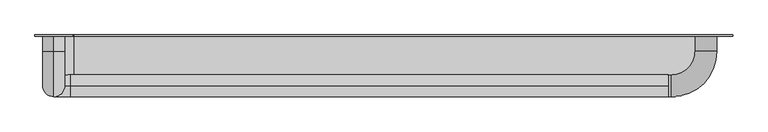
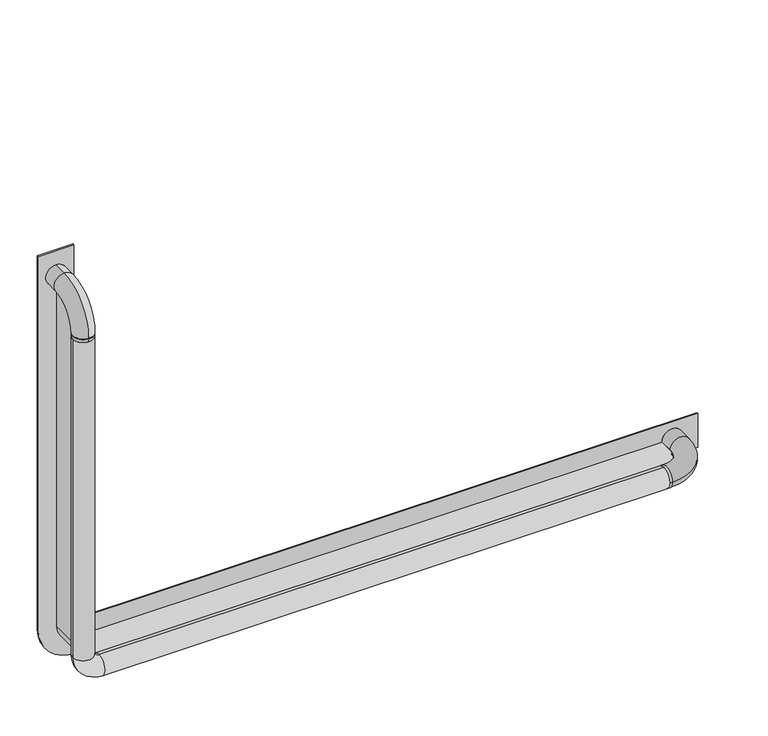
"""IFC4 building model written with IfcOpenShell, lengths in millimetres: proxy geometry, Grab Rail_Metlam_90 Deg_Anti Ligature_Right : 982w x 90d x 632d (MLR104_AL)."""

from ifc_helpers import new_model, si_unit, point, frame, frame_2d, origin, place, context, project, spatial, polyline, circle_curve, ellipse_curve, trimmed, segment, composite_curve, outline, extrude, source, transform, mapped, element, save
from ifc_brep_helpers import plane_surface, cylinder_surface, revolved_surface, advanced_brep


def specialty_equipment_21e379d4(model_context):
    return source(origin(), model_context, "Body", "SolidModel", [
        advanced_brep(
        [(-469.0, -74.0, 768.0), (-1339.0, -74.0, 768.0), (-1339.0, -74.0, 800.0), (-469.0, -74.0, 800.0), (-469.0, -58.0, 784.0), (-469.0, -90.0, 784.0), (-1380.0, -74.0, 809.0), (-1348.0, -74.0, 809.0), (-1380.0, -74.0, 1327.7133711), (-1364.0, -58.0, 1327.7133711), (-1348.0, -74.0, 1327.7133711), (-1364.0, -90.0, 1327.7133711), (-464.0, -58.0, 784.0), (-430.0, -24.0, 784.0), (-398.0, -24.0, 784.0), (-464.0, -90.0, 784.0), (-375.0, 0.0, 811.5), (-375.0, 0.0, 756.5), (-1334.0, 0.0, 756.5), (-1391.5, 0.0, 814.0), (-1391.5, 0.0, 1423.0000618), (-1336.5, 0.0, 1423.0000618), (-1336.5, 0.0, 814.0), (-1334.0, 0.0, 811.5), (-430.0, -2.0, 784.0), (-398.0, -2.0, 784.0), (-1364.0, -24.0, 1400.0), (-1364.0, -24.0, 1368.0), (-1364.0, -2.0, 1368.0), (-1364.0, -2.0, 1400.0), (-1364.0, -90.0, 1334.0), (-1364.0, -58.0, 1334.0), (-1364.0, -90.0, 1332.7133711), (-1364.0, -58.0, 1332.7133711), (-375.0, -2.0, 811.5), (-375.0, -2.0, 756.5), (-1391.5, -2.0, 1423.0000618), (-1336.5, -2.0, 1423.0000618), (-1334.0, -2.0, 811.5), (-1336.5, -2.0, 814.0), (-1391.5, -2.0, 814.0), (-1334.0, -2.0, 756.5)],
        [
            (0, 1),
            (1, 2, circle_curve(frame((-1339.0, -74.0, 784.0), z_axis=(1.0, 0.0, 0.0), x_axis=(0.0, 0.0, -1.0)), 16.0)),
            (2, 3),
            (3, 4, circle_curve(frame((-469.0, -74.0, 784.0), z_axis=(-1.0, 0.0, 0.0), x_axis=(0.0, 0.0, -1.0)), 16.0)),
            (4, 0, circle_curve(frame((-469.0, -74.0, 784.0), z_axis=(-1.0, 0.0, 0.0), x_axis=(0.0, 0.0, -1.0)), 16.0)),
            (0, 5, circle_curve(frame((-469.0, -74.0, 784.0), z_axis=(-1.0, 0.0, 0.0), x_axis=(0.0, 0.0, -1.0)), 16.0)),
            (5, 3, circle_curve(frame((-469.0, -74.0, 784.0), z_axis=(-1.0, 0.0, 0.0), x_axis=(0.0, 0.0, -1.0)), 16.0)),
            (2, 1, circle_curve(frame((-1339.0, -74.0, 784.0), z_axis=(1.0, 0.0, 0.0), x_axis=(0.0, 0.0, -1.0)), 16.0)),
            (1, 6, circle_curve(frame((-1339.0, -74.0, 809.0), z_axis=(0.0, 1.0, 0.0), x_axis=(0.0, 0.0, -1.0)), 41.0)),
            (6, 7, circle_curve(frame((-1364.0, -74.0, 809.0), z_axis=(0.0, 0.0, -1.0), x_axis=(-1.0, 0.0, 0.0)), 16.0)),
            (7, 2, circle_curve(frame((-1339.0, -74.0, 809.0), z_axis=(0.0, -1.0, 0.0), x_axis=(0.0, 0.0, -1.0)), 9.0)),
            (7, 6, circle_curve(frame((-1364.0, -74.0, 809.0), z_axis=(0.0, 0.0, -1.0), x_axis=(-1.0, 0.0, 0.0)), 16.0)),
            (6, 8),
            (8, 9, circle_curve(frame((-1364.0, -74.0, 1327.7133711), z_axis=(0.0, 0.0, -1.0), x_axis=(-1.0, 0.0, 0.0)), 16.0)),
            (9, 10, circle_curve(frame((-1364.0, -74.0, 1327.7133711), z_axis=(0.0, 0.0, -1.0), x_axis=(-1.0, 0.0, 0.0)), 16.0)),
            (10, 7),
            (10, 11, circle_curve(frame((-1364.0, -74.0, 1327.7133711), z_axis=(0.0, 0.0, -1.0), x_axis=(-1.0, 0.0, 0.0)), 16.0)),
            (11, 8, circle_curve(frame((-1364.0, -74.0, 1327.7133711), z_axis=(0.0, 0.0, -1.0), x_axis=(-1.0, 0.0, 0.0)), 16.0)),
            (12, 13, circle_curve(frame((-464.0, -24.0, 784.0), z_axis=(0.0, 0.0, 1.0), x_axis=(1.0, 0.0, 0.0)), 34.0)),
            (13, 14, circle_curve(frame((-414.0, -24.0, 784.0), z_axis=(0.0, -1.0, 0.0), x_axis=(1.0, 0.0, 0.0)), 16.0)),
            (14, 15, circle_curve(frame((-464.0, -24.0, 784.0), z_axis=(0.0, 0.0, -1.0), x_axis=(1.0, 0.0, 0.0)), 66.0)),
            (15, 12, circle_curve(frame((-464.0, -74.0, 784.0), z_axis=(1.0, 0.0, 0.0), x_axis=(0.0, -1.0, 0.0)), 16.0)),
            (12, 15, circle_curve(frame((-464.0, -74.0, 784.0), z_axis=(1.0, 0.0, 0.0), x_axis=(0.0, -1.0, 0.0)), 16.0)),
            (14, 13, circle_curve(frame((-414.0, -24.0, 784.0), z_axis=(0.0, -1.0, 0.0), x_axis=(1.0, 0.0, 0.0)), 16.0)),
            (15, 5),
            (4, 12),
            (16, 17),
            (17, 18),
            (18, 19, circle_curve(frame((-1334.0, 0.0, 814.0), z_axis=(0.0, 1.0, 0.0), x_axis=(0.0, 0.0, -1.0)), 57.5)),
            (19, 20),
            (20, 21),
            (21, 22),
            (22, 23, circle_curve(frame((-1334.0, 0.0, 814.0), z_axis=(0.0, -1.0, 0.0), x_axis=(0.0, 0.0, -1.0)), 2.5)),
            (23, 16),
            (13, 24),
            (24, 25, circle_curve(frame((-414.0, -2.0, 784.0), z_axis=(0.0, -1.0, 0.0), x_axis=(1.0, 0.0, 0.0)), 16.0)),
            (25, 14),
            (25, 24, circle_curve(frame((-414.0, -2.0, 784.0), z_axis=(0.0, -1.0, 0.0), x_axis=(1.0, 0.0, 0.0)), 16.0)),
            (26, 27, circle_curve(frame((-1364.0, -24.0, 1384.0), z_axis=(0.0, 1.0, 0.0), x_axis=(0.0, 0.0, 1.0)), 16.0)),
            (27, 28),
            (28, 29, circle_curve(frame((-1364.0, -2.0, 1384.0), z_axis=(0.0, -1.0, 0.0), x_axis=(0.0, 0.0, 1.0)), 16.0)),
            (29, 26),
            (27, 26, circle_curve(frame((-1364.0, -24.0, 1384.0), z_axis=(0.0, 1.0, 0.0), x_axis=(0.0, 0.0, 1.0)), 16.0)),
            (29, 28, circle_curve(frame((-1364.0, -2.0, 1384.0), z_axis=(0.0, -1.0, 0.0), x_axis=(0.0, 0.0, 1.0)), 16.0)),
            (26, 30, circle_curve(frame((-1364.0, -24.0, 1334.0), z_axis=(1.0, 0.0, 0.0), x_axis=(0.0, 0.0, 1.0)), 66.0)),
            (30, 31, circle_curve(frame((-1364.0, -74.0, 1334.0), z_axis=(0.0, 0.0, 1.0), x_axis=(0.0, -1.0, 0.0)), 16.0)),
            (31, 27, circle_curve(frame((-1364.0, -24.0, 1334.0), z_axis=(-1.0, 0.0, 0.0), x_axis=(0.0, 0.0, 1.0)), 34.0)),
            (31, 30, circle_curve(frame((-1364.0, -74.0, 1334.0), z_axis=(0.0, 0.0, 1.0), x_axis=(0.0, -1.0, 0.0)), 16.0)),
            (30, 32),
            (32, 33, circle_curve(frame((-1364.0, -74.0, 1332.7133711), z_axis=(0.0, 0.0, 1.0), x_axis=(0.0, -1.0, 0.0)), 16.0)),
            (33, 31),
            (33, 32, circle_curve(frame((-1364.0, -74.0, 1332.7133711), z_axis=(0.0, 0.0, 1.0), x_axis=(0.0, -1.0, 0.0)), 16.0)),
            (32, 11),
            (9, 33),
            (16, 34),
            (34, 35),
            (35, 17),
            (20, 36),
            (36, 37),
            (37, 21),
            (34, 38),
            (38, 39, circle_curve(frame((-1334.0, -2.0, 814.0), z_axis=(0.0, 1.0, 0.0), x_axis=(0.0, 0.0, -1.0)), 2.5)),
            (39, 37),
            (36, 40),
            (40, 41, circle_curve(frame((-1334.0, -2.0, 814.0), z_axis=(0.0, -1.0, 0.0), x_axis=(0.0, 0.0, -1.0)), 57.5)),
            (41, 35),
            (23, 38),
            (39, 22),
            (41, 18),
            (19, 40),
        ],
        [
            cylinder_surface(frame((-469.0, -74.0, 784.0), z_axis=(1.0, 0.0, 0.0), x_axis=(0.0, 0.0, -1.0)), 16.0),
            revolved_surface(trimmed(ellipse_curve(frame((-1339.0, -74.0, 784.0), z_axis=(1.0, 0.0, 0.0), x_axis=(0.0, 0.0, -1.0)), 16.0, 16.0), [point((-1339.0, -74.0, 768.0))], [point((-1339.0, -74.0, 800.0))], True, "CARTESIAN"), (-1339.0, 0.0, 809.0), (0.0, 1.0, 0.0)),
            revolved_surface(trimmed(ellipse_curve(frame((-1339.0, -74.0, 784.0), z_axis=(1.0, 0.0, 0.0), x_axis=(0.0, 0.0, -1.0)), 16.0, 16.0), [point((-1339.0, -74.0, 800.0))], [point((-1339.0, -74.0, 768.0))], True, "CARTESIAN"), (-1339.0, 0.0, 809.0), (0.0, 1.0, 0.0)),
            cylinder_surface(frame((-1364.0, -74.0, 809.0), z_axis=(0.0, 0.0, -1.0), x_axis=(-1.0, 0.0, 0.0)), 16.0),
            revolved_surface(trimmed(ellipse_curve(frame((-414.0, -24.0, 784.0), z_axis=(0.0, 1.0, 0.0), x_axis=(1.0, 0.0, 0.0)), 16.0, 16.0), [point((-398.0, -24.0, 784.0))], [point((-430.0, -24.0, 784.0))], True, "CARTESIAN"), (-464.0, -24.0, 784.0), (0.0, 0.0, -1.0)),
            revolved_surface(trimmed(ellipse_curve(frame((-414.0, -24.0, 784.0), z_axis=(0.0, 1.0, 0.0), x_axis=(1.0, 0.0, 0.0)), 16.0, 16.0), [point((-430.0, -24.0, 784.0))], [point((-398.0, -24.0, 784.0))], True, "CARTESIAN"), (-464.0, -24.0, 784.0), (0.0, 0.0, -1.0)),
            cylinder_surface(frame((-464.0, -74.0, 784.0), z_axis=(1.0, 0.0, 0.0), x_axis=(0.0, -1.0, 0.0)), 16.0),
            plane_surface(frame((-414.0, 0.0, 784.0), z_axis=(0.0, 1.0, 0.0), x_axis=(0.0, 0.0, 1.0))),
            cylinder_surface(frame((-414.0, 0.0, 784.0), z_axis=(0.0, 1.0, 0.0), x_axis=(1.0, 0.0, 0.0)), 16.0),
            cylinder_surface(frame((-1364.0, 0.0, 1384.0), z_axis=(0.0, 1.0, 0.0), x_axis=(0.0, 0.0, 1.0)), 16.0),
            revolved_surface(trimmed(ellipse_curve(frame((-1364.0, -24.0, 1384.0), z_axis=(0.0, 1.0, 0.0), x_axis=(0.0, 0.0, 1.0)), 16.0, 16.0), [point((-1364.0, -24.0, 1400.0))], [point((-1364.0, -24.0, 1368.0))], True, "CARTESIAN"), (-1364.0, -24.0, 1334.0), (1.0, 0.0, 0.0)),
            revolved_surface(trimmed(ellipse_curve(frame((-1364.0, -24.0, 1384.0), z_axis=(0.0, 1.0, 0.0), x_axis=(0.0, 0.0, 1.0)), 16.0, 16.0), [point((-1364.0, -24.0, 1368.0))], [point((-1364.0, -24.0, 1400.0))], True, "CARTESIAN"), (-1364.0, -24.0, 1334.0), (1.0, 0.0, 0.0)),
            cylinder_surface(frame((-1364.0, -74.0, 1334.0), z_axis=(0.0, 0.0, 1.0), x_axis=(0.0, -1.0, 0.0)), 16.0),
            cylinder_surface(frame((-1364.0, -74.0, 1332.7133711), z_axis=(0.0, 0.0, 1.0), x_axis=(0.0, -1.0, 0.0)), 16.0),
            plane_surface(frame((-375.0, 0.0, 784.0), z_axis=(1.0, 0.0, 0.0), x_axis=(0.0, -1.0, 0.0))),
            plane_surface(frame((-1364.0, 0.0, 1423.0000618), z_axis=(0.0, 0.0, 1.0), x_axis=(0.0, -1.0, 0.0))),
            plane_surface(frame((-375.0, -2.0, 811.5), z_axis=(0.0, -1.0, 0.0), x_axis=(-1.0, 0.0, 0.0))),
            plane_surface(frame((-375.0, 0.0, 811.5), z_axis=(0.0, 0.0, 1.0), x_axis=(-1.0, 0.0, 0.0))),
            plane_surface(frame((-1336.5, 0.0, 814.0), z_axis=(1.0, 0.0, 0.0), x_axis=(0.0, 0.0, 1.0))),
            plane_surface(frame((-375.0, -2.0, 756.5), z_axis=(0.0, 0.0, -1.0), x_axis=(-1.0, 0.0, 0.0))),
            plane_surface(frame((-1391.5, -2.0, 814.0), z_axis=(-1.0, 0.0, 0.0), x_axis=(0.0, 0.0, 1.0))),
            cylinder_surface(frame((-1334.0, 0.0, 814.0), z_axis=(0.0, 1.0, 0.0), x_axis=(0.0, 0.0, -1.0)), 57.5),
            revolved_surface(polyline([(-1334.0, 0.0, 811.5), (-1334.0, -2.0, 811.5)]), (-1334.0, 0.0, 814.0), (0.0, 1.0, 0.0)),
        ],
        [
            (0, [[1, 2, 3, 4, 5]]),
            (0, [[-1, 6, 7, -3, 8]]),
            (1, [[-2, 9, 10, 11]]),
            (2, [[-8, -11, 12, -9]]),
            (3, [[-10, 13, 14, 15, 16]]),
            (3, [[-12, -16, 17, 18, -13]]),
            (4, [[19, 20, 21, 22]]),
            (5, [[-19, 23, -21, 24]]),
            (6, [[-22, 25, -6, -5, 26]]),
            (6, [[-23, -26, -4, -7, -25]]),
            (7, [[27, 28, 29, 30, 31, 32, 33, 34]]),
            (8, [[-20, 35, 36, 37]]),
            (8, [[-24, -37, 38, -35]]),
            (9, [[39, 40, 41, 42]]),
            (9, [[43, -42, 44, -40]]),
            (10, [[-39, 45, 46, 47]]),
            (11, [[-43, -47, 48, -45]]),
            (12, [[-46, 49, 50, 51]]),
            (12, [[-48, -51, 52, -49]]),
            (13, [[-50, 53, -17, -15, 54]]),
            (13, [[-52, -54, -14, -18, -53]]),
            (14, [[-27, 55, 56, 57]]),
            (15, [[58, 59, 60, -31]]),
            (16, [[-56, 61, 62, 63, -59, 64, 65, 66], [-36, -38], [-41, -44]]),
            (17, [[-55, -34, 67, -61]]),
            (18, [[-60, -63, 68, -32]]),
            (19, [[-57, -66, 69, -28]]),
            (20, [[-58, -30, 70, -64]]),
            (21, [[-65, -70, -29, -69]]),
            (22, [[-62, -67, -33, -68]]),
        ],
    ),
        extrude(outline(composite_curve([segment(polyline([(782.0, -414.0), (784.0, -414.0), (784.0, -1334.0)]), True, "CONTINUOUS"), segment(trimmed(circle_curve(frame_2d((811.5, -1334.0)), 27.5), [point((784.0, -1334.0))], [point((811.5, -1361.5))], True, "CARTESIAN"), True, "CONTINUOUS"), segment(polyline([(811.5, -1361.5), (1384.0, -1361.5), (1384.0, -1363.5), (811.5, -1363.5)]), True, "CONTINUOUS"), segment(trimmed(circle_curve(frame_2d((811.5, -1334.0)), 29.5), [point((811.5, -1363.5))], [point((782.0, -1334.0))], False, "CARTESIAN"), True, "CONTINUOUS"), segment(polyline([(782.0, -1334.0), (782.0, -414.0)]), True, "CONTINUOUS")], self_intersect=False)), frame((0.0, -58.1965194, 0.0), z_axis=(0.0, 1.0, 0.0), x_axis=(0.0, 0.0, 1.0)), (0.0, 0.0, 1.0), 56.1965194),
    ])


if __name__ == "__main__":
    model = new_model("IFC4")
    model_context = context("Model", 3, world=origin())
    ifc_project = project(units=[si_unit("LENGTHUNIT", "METRE", prefix="MILLI")], contexts=[model_context])
    site = spatial("IfcSite", under=ifc_project)
    building = spatial("IfcBuilding", under=site)
    placement = place(None, origin())
    specialty_equipment_shape = specialty_equipment_21e379d4(model_context)
    element("IfcBuildingElementProxy", 1, Name="Grab Rail_Metlam_90 Deg_Anti Ligature_Right : 982w x 90d x 632d (MLR104_AL)", ObjectType="Grab Rail_Metlam_90 Deg_Anti Ligature_Right : 982w x 90d x 632d (MLR104_AL)", at=placement, inside=building, context=model_context, shape_type="MappedRepresentation", body=[
        mapped(specialty_equipment_shape, transform((0.0, 0.0, 0.0), x_axis=(1.0, 0.0, 0.0), y_axis=(0.0, 1.0, 0.0), z_axis=(0.0, 0.0, 1.0))),
    ])
    save(model, "model.ifc")
